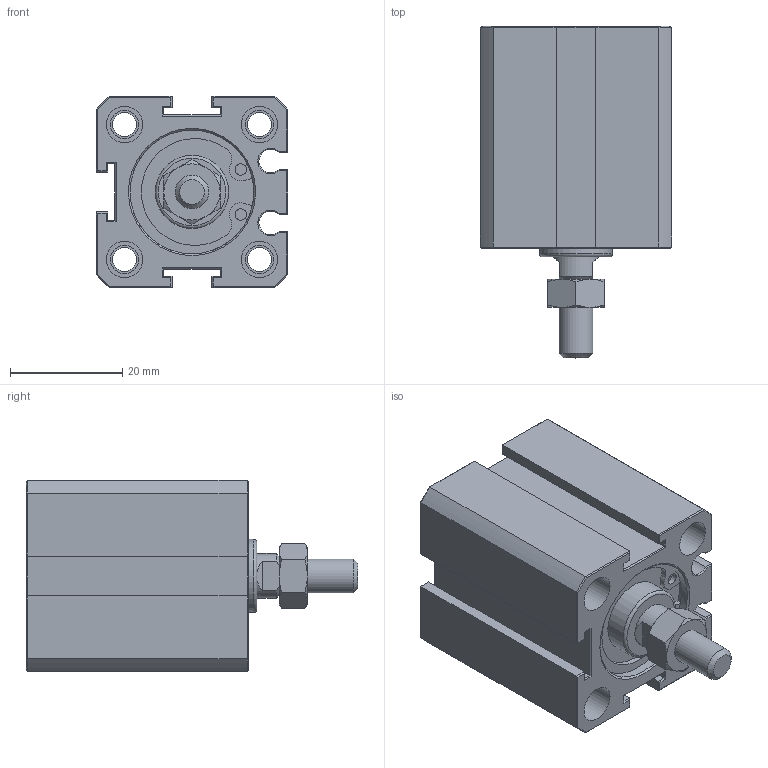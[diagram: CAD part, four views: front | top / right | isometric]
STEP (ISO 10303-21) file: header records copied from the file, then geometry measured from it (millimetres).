
FILE_DESCRIPTION(/* description */ (''),/* implementation_level */ '2;1');
FILE_NAME(/* name */ 'AJC-SDM20X10W',/* time_stamp */ '2019-07-05T16:11:23+08:00',/* author */ ('JEFF HUANG'),/* organization */ ('TAIWAN AMAC CLAMP INDUSTRIAL CO., LTD.'),/* preprocessor_version */ 'ST-DEVELOPER v16.7',/* originating_system */ 'DEX',/* authorisation */ $);
FILE_SCHEMA (('AUTOMOTIVE_DESIGN {1 0 10303 214 3 1 1}'));
Length unit declared in the file: millimetre
Products named in the file (1): AJC-SDM20X10W
Bounding box: 34 x 59 x 34 mm (x, y, z)
Volume: 37013.2 mm3; surface area: 13180.6 mm2
Topology: 1 solids, 1 shells, 233 faces, 505 edges, 303 vertices
Faces by surface type: plane 151, cylinder 51, cone 29, torus 2
Full cylindrical faces by diameter (mm): 2 x4, 4.3 x4, 5 x10, 6 x1, 6.5 x8, 13 x2, 22 x2
Entity records: 7717 total; most frequent: CARTESIAN_POINT 1154, DIRECTION 1020, ORIENTED_EDGE 930, EDGE_CURVE 465, AXIS2_PLACEMENT_3D 373, EDGE_LOOP 306, FACE_BOUND 306, VERTEX_POINT 299
